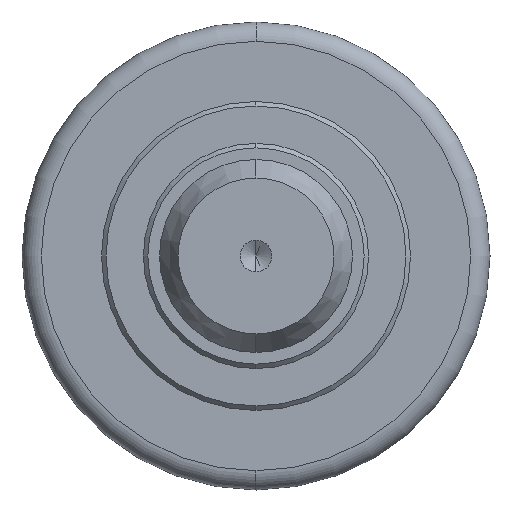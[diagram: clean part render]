
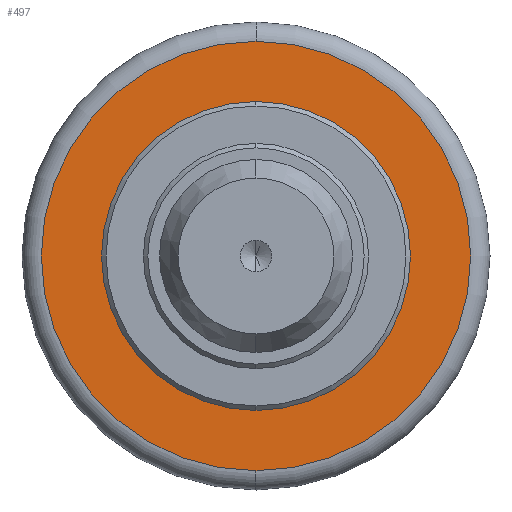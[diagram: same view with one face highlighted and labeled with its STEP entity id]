
A CAD part, left-side view. The second image highlights one B-rep face of the part: STEP entity #497.
In plain terms, the highlighted planar face has unit normal (-1, 0, 0).
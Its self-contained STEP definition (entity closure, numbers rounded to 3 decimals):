
#9 = VERTEX_POINT ( 'NONE', #530 ) ;
#16 = DIRECTION ( 'NONE',  ( -1., 0., 0. ) ) ;
#32 = DIRECTION ( 'NONE',  ( 0., 0., -1. ) ) ;
#73 = PLANE ( 'NONE',  #423 ) ;
#93 = DIRECTION ( 'NONE',  ( 1., 0., 0. ) ) ;
#139 = VERTEX_POINT ( 'NONE', #789 ) ;
#145 = AXIS2_PLACEMENT_3D ( 'NONE', #164, #184, #841 ) ;
#164 = CARTESIAN_POINT ( 'NONE',  ( -2.65, 0., 0. ) ) ;
#184 = DIRECTION ( 'NONE',  ( -1., 0., 0. ) ) ;
#199 = CIRCLE ( 'NONE', #145, 33.359 ) ;
#204 = ORIENTED_EDGE ( 'NONE', *, *, #746, .T. ) ;
#341 = EDGE_LOOP ( 'NONE', ( #204, #571 ) ) ;
#350 = ORIENTED_EDGE ( 'NONE', *, *, #869, .T. ) ;
#361 = DIRECTION ( 'NONE',  ( 0., 0., 1. ) ) ;
#368 = VERTEX_POINT ( 'NONE', #673 ) ;
#370 = DIRECTION ( 'NONE',  ( 0., 0., -1. ) ) ;
#382 = DIRECTION ( 'NONE',  ( 1., 0., 0. ) ) ;
#413 = CIRCLE ( 'NONE', #785, 23.75 ) ;
#423 = AXIS2_PLACEMENT_3D ( 'NONE', #884, #16, #494 ) ;
#432 = CIRCLE ( 'NONE', #562, 33.359 ) ;
#436 = CARTESIAN_POINT ( 'NONE',  ( -2.65, 0., 0. ) ) ;
#482 = ORIENTED_EDGE ( 'NONE', *, *, #695, .T. ) ;
#494 = DIRECTION ( 'NONE',  ( 0., 0., 1. ) ) ;
#497 = ADVANCED_FACE ( 'NONE', ( #861, #588 ), #73, .T. ) ;
#503 = CARTESIAN_POINT ( 'NONE',  ( -2.65, 0., 0. ) ) ;
#530 = CARTESIAN_POINT ( 'NONE',  ( -2.65, 0., -23.75 ) ) ;
#562 = AXIS2_PLACEMENT_3D ( 'NONE', #436, #663, #361 ) ;
#571 = ORIENTED_EDGE ( 'NONE', *, *, #778, .T. ) ;
#588 = FACE_BOUND ( 'NONE', #341, .T. ) ;
#634 = CARTESIAN_POINT ( 'NONE',  ( -2.65, 0., 0. ) ) ;
#650 = AXIS2_PLACEMENT_3D ( 'NONE', #634, #93, #32 ) ;
#663 = DIRECTION ( 'NONE',  ( -1., 0., 0. ) ) ;
#673 = CARTESIAN_POINT ( 'NONE',  ( -2.65, 0., -33.359 ) ) ;
#695 = EDGE_CURVE ( 'NONE', #139, #368, #432, .T. ) ;
#700 = VERTEX_POINT ( 'NONE', #939 ) ;
#746 = EDGE_CURVE ( 'NONE', #9, #700, #849, .T. ) ;
#778 = EDGE_CURVE ( 'NONE', #700, #9, #413, .T. ) ;
#785 = AXIS2_PLACEMENT_3D ( 'NONE', #503, #382, #370 ) ;
#789 = CARTESIAN_POINT ( 'NONE',  ( -2.65, 0., 33.359 ) ) ;
#841 = DIRECTION ( 'NONE',  ( 0., 0., 1. ) ) ;
#849 = CIRCLE ( 'NONE', #650, 23.75 ) ;
#861 = FACE_OUTER_BOUND ( 'NONE', #912, .T. ) ;
#869 = EDGE_CURVE ( 'NONE', #368, #139, #199, .T. ) ;
#884 = CARTESIAN_POINT ( 'NONE',  ( -2.65, 32.959, 0. ) ) ;
#912 = EDGE_LOOP ( 'NONE', ( #482, #350 ) ) ;
#939 = CARTESIAN_POINT ( 'NONE',  ( -2.65, 0., 23.75 ) ) ;
